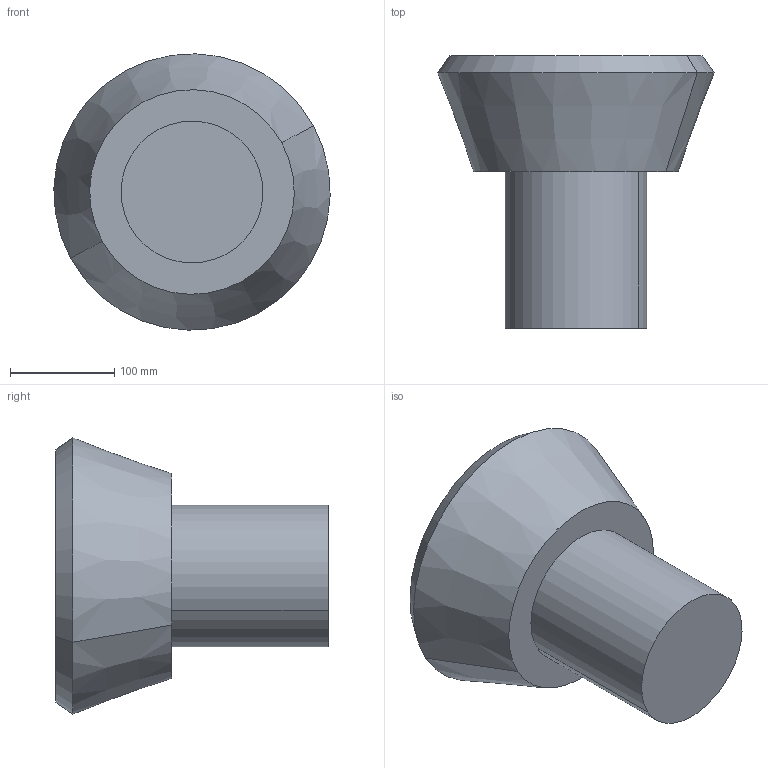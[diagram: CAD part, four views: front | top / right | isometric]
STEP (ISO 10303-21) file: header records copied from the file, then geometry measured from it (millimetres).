
FILE_DESCRIPTION(('CATIA V5 STEP Exchange'),'2;1');
FILE_NAME('C:\_Andres\UNIVERSIDAD\IQS\ASIGNATURAS\DAO\EXF\EXF-15161c\1original\Forés_Garriga_Ej09-optimiza_v8.stp','2016-03-04T21:55:28+00:00',('none'),('none'),'CATIA Version 5 Release 20 SP 1 (IN-10)','CATIA V5 STEP AP203','none');
FILE_SCHEMA(('CONFIG_CONTROL_DESIGN'));
Length unit declared in the file: millimetre
Products named in the file (1): Forés_Garriga_Ej09-optimiza_v8
Bounding box: 264.72 x 260.88 x 264.72 mm (x, y, z)
Volume: 6955475.9 mm3; surface area: 233303.5 mm2
Topology: 1 solids, 2 shells, 13 faces, 22 edges, 14 vertices
Faces by surface type: plane 5, cylinder 4, cone 4
Entity records: 324 total; most frequent: CARTESIAN_POINT 47, ORIENTED_EDGE 44, DIRECTION 42, AXIS2_PLACEMENT_3D 25, EDGE_CURVE 22, CIRCLE 14, EDGE_LOOP 14, VERTEX_POINT 14
